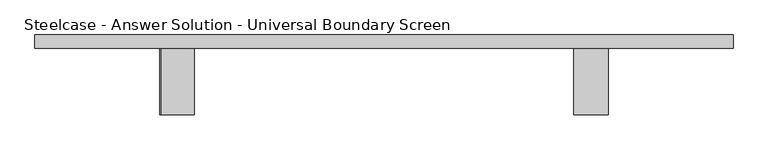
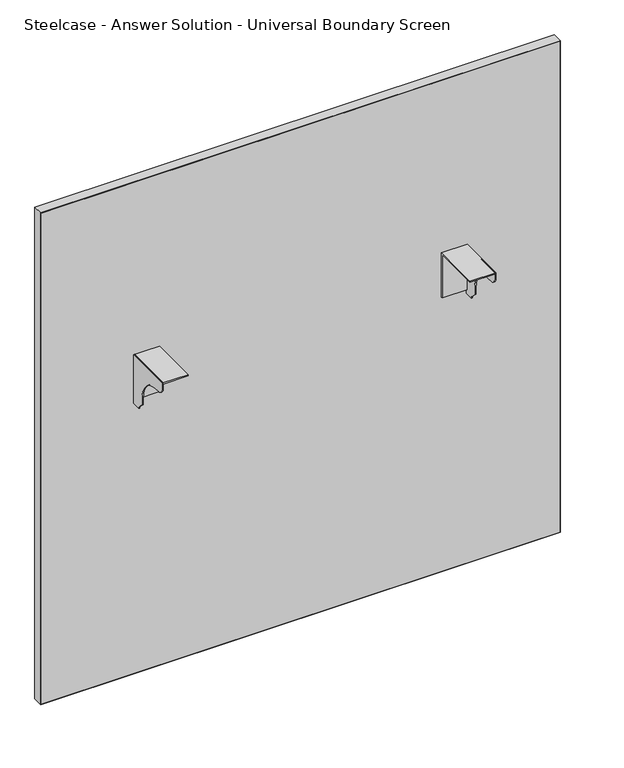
"""IFC4 building model written with IfcOpenShell, lengths in millimetres: furniture geometry, Steelcase - Answer Solution - Universal Boundary Screen : 42H x 42W."""

from ifc_helpers import new_model, si_unit, point, frame, frame_2d, origin, place, context, project, spatial, polyline, circle_curve, trimmed, segment, composite_curve, outline, extrude, source, transform, mapped, element, save


def steelcase_answer_solution_universal_boundary_screen_6d2627b4(model_context):
    return source(origin(), model_context, "Body", "SweptSolid", [
        extrude(outline(polyline([(-103.1670434, 689.3558876), (-103.1670434, 692.1499758), (-1.5668826, 692.1499758), (-1.5668826, 595.5029317), (-4.1079736, 595.5029317), (-4.1079736, 689.3558876), (-103.1670434, 689.3558876)])), frame((819.6336711, 0.0, 0.0), z_axis=(1.0, 0.0, 0.0), x_axis=(0.0, 1.0, 0.0)), (0.0, 0.0, 1.0), 53.3444116),
        extrude(outline(composite_curve([segment(polyline([(-103.1670434, 679.2814802), (-103.1670434, 692.1499758), (-1.5668826, 692.1499758), (-1.5668826, 586.9634093), (-19.8232934, 586.9634093), (-19.8232934, 589.7574248), (-32.0458032, 601.9799346), (-32.0458032, 615.7814802)]), True, "CONTINUOUS"), segment(trimmed(circle_curve(frame_2d((-82.8458032, 615.7814802)), 50.8), [point((-32.0458032, 615.7814802))], [point((-82.8458032, 666.5814802))], True, "CARTESIAN"), True, "CONTINUOUS"), segment(polyline([(-82.8458032, 666.5814802), (-90.4670434, 666.5814802)]), True, "CONTINUOUS"), segment(trimmed(circle_curve(frame_2d((-90.4670434, 679.2814802)), 12.7), [point((-90.4670434, 666.5814802))], [point((-103.1670434, 679.2814802))], False, "CARTESIAN"), True, "CONTINUOUS")], self_intersect=False)), frame((870.4328959, 0.0, 0.0), z_axis=(1.0, 0.0, 0.0), x_axis=(0.0, 1.0, 0.0)), (0.0, 0.0, 1.0), 2.5451868),
        extrude(outline(polyline([(-103.1670434, 689.3558876), (-103.1670434, 692.1499758), (-1.5668826, 692.1499758), (-1.5668826, 595.5029317), (-4.1079736, 595.5029317), (-4.1079736, 689.3558876), (-103.1670434, 689.3558876)])), frame((189.7232694, 0.0, 0.0), z_axis=(1.0, 0.0, 0.0), x_axis=(0.0, 1.0, 0.0)), (0.0, 0.0, 1.0), 50.7992249),
        extrude(outline(composite_curve([segment(polyline([(-103.1670434, 679.2814802), (-103.1670434, 692.1499758), (-1.5668826, 692.1499758), (-1.5668826, 586.9634093), (-19.8232934, 586.9634093), (-19.8232934, 589.7574248), (-32.0458032, 601.9799346), (-32.0458032, 615.7814802)]), True, "CONTINUOUS"), segment(trimmed(circle_curve(frame_2d((-82.8458032, 615.7814802)), 50.8), [point((-32.0458032, 615.7814802))], [point((-82.8458032, 666.5814802))], True, "CARTESIAN"), True, "CONTINUOUS"), segment(polyline([(-82.8458032, 666.5814802), (-90.4670434, 666.5814802)]), True, "CONTINUOUS"), segment(trimmed(circle_curve(frame_2d((-90.4670434, 679.2814802)), 12.7), [point((-90.4670434, 666.5814802))], [point((-103.1670434, 679.2814802))], False, "CARTESIAN"), True, "CONTINUOUS")], self_intersect=False)), frame((187.1780827, 0.0, 0.0), z_axis=(1.0, 0.0, 0.0), x_axis=(0.0, 1.0, 0.0)), (0.0, 0.0, 1.0), 2.5451868),
        extrude(outline(polyline([(-2.3293422, 18.9055112), (1062.4855076, 18.9055112), (1062.4855076, -1.5668826), (-2.3293422, -1.5668826), (-2.3293422, 18.9055112)])), frame((0.0, 0.0, 1.016), z_axis=(0.0, 0.0, 1.0), x_axis=(1.0, 0.0, 0.0)), (0.0, 0.0, 1.0), 1064.7914249),
        extrude(outline(polyline([(1066.8, 1063.4780827), (1066.8, -3.3219173), (0.0, -3.3219173), (0.0, 1063.4780827), (1066.8, 1063.4780827)]), holes=[polyline([(1065.8074249, 1062.4855076), (1.016, 1062.4855076), (1.016, -2.3293422), (1065.8074249, -2.3293422), (1065.8074249, 1062.4855076)])]), frame((0.0, -1.5668826, 0.0), z_axis=(0.0, 1.0, 0.0), x_axis=(0.0, 0.0, 1.0)), (0.0, 0.0, 1.0), 20.4723938),
    ])


if __name__ == "__main__":
    model = new_model("IFC4")
    model_context = context("Model", 3, world=origin())
    ifc_project = project(units=[si_unit("LENGTHUNIT", "METRE", prefix="MILLI")], contexts=[model_context])
    site = spatial("IfcSite", under=ifc_project)
    building = spatial("IfcBuilding", under=site)
    placement = place(None, origin())
    steelcase_answer_solution_universal_boundary_screen_shape = steelcase_answer_solution_universal_boundary_screen_6d2627b4(model_context)
    element("IfcFurniture", 1, ObjectType="Steelcase - Answer Solution - Universal Boundary Screen : 42H x 42W", at=placement, inside=building, context=model_context, shape_type="MappedRepresentation", body=[
        mapped(steelcase_answer_solution_universal_boundary_screen_shape, transform((0.0, 0.0, 0.0), x_axis=(1.0, 0.0, 0.0), y_axis=(0.0, 1.0, 0.0), z_axis=(0.0, 0.0, 1.0))),
    ])
    save(model, "model.ifc")
